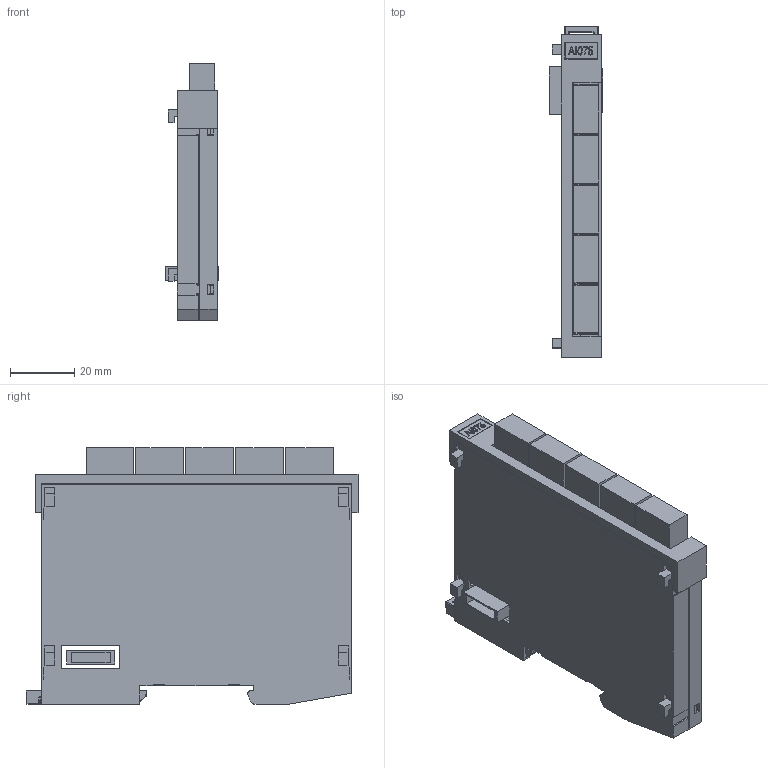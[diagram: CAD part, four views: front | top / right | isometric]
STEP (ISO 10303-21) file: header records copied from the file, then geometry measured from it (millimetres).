
FILE_DESCRIPTION (( 'STEP AP214' ), '1' );
FILE_NAME ('AI075.STEP', '2015-08-18T12:28:21', ( 'SIGMATEK GmbH & Co KG' ), ( 'SIGMATEK GmbH & Co KG' ), 'SwSTEP 2.0', 'SolidWorks 2013', '' );
FILE_SCHEMA (( 'AUTOMOTIVE_DESIGN' ));
Length unit declared in the file: millimetre
Products named in the file (11): S-Dias Schale links_f Suport; 4110251342_MF 10-5 MC CABUR_1854510000; AI075; LP_AI075; Dummy_4110262104 4pol.Federkraftstecker f.2reih 1952283; Dummy_4110251205 4pol.Minicombicon-Grundgehäuse RM3,5 1937512; Dummy_4080225346 Erni Stift; Dummy_4080225345 Erni Buchse; S-Dias Rasthaken 20130313; Schieber_f Suport; S-Dias Schale rechts_f Suport
Assembly tree (18 placements, depth 3):
  AI075
    4110251342_MF 10-5 MC CABUR_1854510000
    S-Dias Schale links_f Suport
    S-Dias Schale rechts_f Suport
    Schieber_f Suport
    S-Dias Rasthaken 20130313
    LP_AI075
      Dummy_4080225345 Erni Buchse
      Dummy_4080225346 Erni Stift
      Dummy_4110251205 4pol.Minicombicon-Grundgehäuse RM3,5 1937512  x5
      Dummy_4110262104 4pol.Federkraftstecker f.2reih 1952283  x5
Bounding box: 16.8 x 103.61 x 80.15 mm (x, y, z)
Volume: 34929.4 mm3; surface area: 46596.6 mm2
Topology: 17 solids, 17 shells, 872 faces, 2497 edges, 1654 vertices
Faces by surface type: plane 612, cylinder 128, bspline 76, cone 28, torus 15, sphere 13
Entity records: 32913 total; most frequent: CARTESIAN_POINT 8783, ORIENTED_EDGE 4712, DIRECTION 3619, EDGE_CURVE 2356, LINE 1665, VECTOR 1665, VERTEX_POINT 1566, AXIS2_PLACEMENT_3D 977
